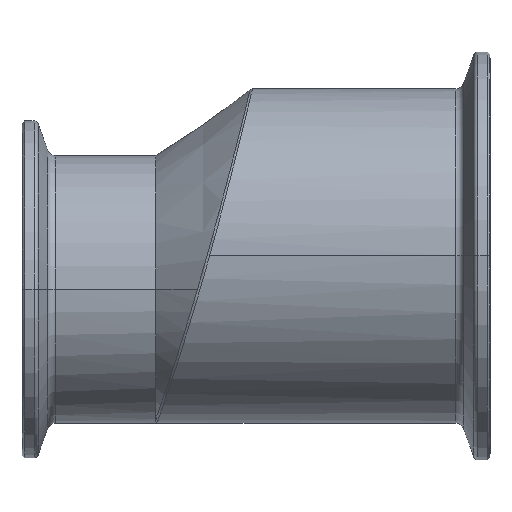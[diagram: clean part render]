
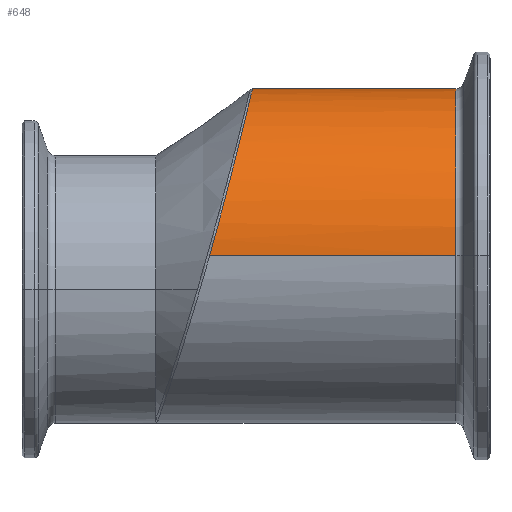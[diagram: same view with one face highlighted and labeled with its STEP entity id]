
A CAD part, top view. The second image highlights one B-rep face of the part: STEP entity #648.
In plain terms, the highlighted cylindrical face has radius 31.75 mm (diameter 63.5 mm), a partial arc.
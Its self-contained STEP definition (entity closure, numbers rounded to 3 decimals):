
#3 = CARTESIAN_POINT ( 'NONE',  ( 38.617, 10.999, -29.802 ) ) ;
#18 = CARTESIAN_POINT ( 'NONE',  ( 39.36, 13.845, -28.646 ) ) ;
#106 = ORIENTED_EDGE ( 'NONE', *, *, #2644, .F. ) ;
#117 = CARTESIAN_POINT ( 'NONE',  ( 39.827, 15.66, -27.697 ) ) ;
#148 = CARTESIAN_POINT ( 'NONE',  ( 40.376, 17.823, -26.281 ) ) ;
#168 = DIRECTION ( 'NONE',  ( -1., 0., 0. ) ) ;
#178 = CARTESIAN_POINT ( 'NONE',  ( 40.484, 18.25, -25.986 ) ) ;
#183 = CARTESIAN_POINT ( 'NONE',  ( 40.696, 19.094, -25.373 ) ) ;
#190 = CARTESIAN_POINT ( 'NONE',  ( 40.801, 19.509, -25.055 ) ) ;
#203 = CARTESIAN_POINT ( 'NONE',  ( -12.994, 0., 31.75 ) ) ;
#213 = CARTESIAN_POINT ( 'NONE',  ( 41.106, 20.725, -24.075 ) ) ;
#221 = CARTESIAN_POINT ( 'NONE',  ( 41.298, 21.499, -23.386 ) ) ;
#277 = VERTEX_POINT ( 'NONE', #1283 ) ;
#324 = CARTESIAN_POINT ( 'NONE',  ( 41.848, 23.716, -21.211 ) ) ;
#334 = CARTESIAN_POINT ( 'NONE',  ( 42.175, 25.052, -19.618 ) ) ;
#345 = CARTESIAN_POINT ( 'NONE',  ( 42.535, 26.536, -17.44 ) ) ;
#354 = CARTESIAN_POINT ( 'NONE',  ( 42.605, 26.823, -16.995 ) ) ;
#391 = CARTESIAN_POINT ( 'NONE',  ( 35.637, 0., -31.75 ) ) ;
#401 = CARTESIAN_POINT ( 'NONE',  ( 36.207, 2.035, -31.75 ) ) ;
#424 = CARTESIAN_POINT ( 'NONE',  ( 42.738, 27.372, -16.097 ) ) ;
#431 = CARTESIAN_POINT ( 'NONE',  ( 42.801, 27.634, -15.642 ) ) ;
#445 = CARTESIAN_POINT ( 'NONE',  ( 42.983, 28.386, -14.261 ) ) ;
#517 = EDGE_CURVE ( 'NONE', #1997, #277, #2037, .T. ) ;
#564 = EDGE_CURVE ( 'NONE', #1801, #879, #2414, .T. ) ;
#568 = CARTESIAN_POINT ( 'NONE',  ( 43.092, 28.84, -13.319 ) ) ;
#576 = CARTESIAN_POINT ( 'NONE',  ( 38.362, 10.029, -30.142 ) ) ;
#596 = CARTESIAN_POINT ( 'NONE',  ( 43.287, 29.655, -11.391 ) ) ;
#629 = CARTESIAN_POINT ( 'NONE',  ( 43.373, 30.015, -10.405 ) ) ;
#645 = CARTESIAN_POINT ( 'NONE',  ( 43.522, 30.64, -8.389 ) ) ;
#648 = ADVANCED_FACE ( 'NONE', ( #1238 ), #722, .T. ) ;
#655 = CARTESIAN_POINT ( 'NONE',  ( 43.585, 30.905, -7.353 ) ) ;
#656 = VECTOR ( 'NONE', #168, 1000. ) ;
#665 = CARTESIAN_POINT ( 'NONE',  ( 43.735, 31.537, -4.24 ) ) ;
#673 = CARTESIAN_POINT ( 'NONE',  ( 43.785, 31.747, -2.147 ) ) ;
#722 = CYLINDRICAL_SURFACE ( 'NONE', #1386, 31.75 ) ;
#780 = DIRECTION ( 'NONE',  ( -1., 0., 0. ) ) ;
#786 = CARTESIAN_POINT ( 'NONE',  ( 37.837, 8.049, -30.73 ) ) ;
#797 = CARTESIAN_POINT ( 'NONE',  ( 43.786, 31.751, 0.49 ) ) ;
#854 = CARTESIAN_POINT ( 'NONE',  ( 43.783, 31.738, 1.018 ) ) ;
#862 = CARTESIAN_POINT ( 'NONE',  ( 43.771, 31.686, 2.077 ) ) ;
#863 = DIRECTION ( 'NONE',  ( 0., 0., 1. ) ) ;
#866 = CARTESIAN_POINT ( 'NONE',  ( 37.57, 7.053, -30.973 ) ) ;
#870 = ORIENTED_EDGE ( 'NONE', *, *, #2088, .T. ) ;
#877 = CARTESIAN_POINT ( 'NONE',  ( 43.761, 31.647, 2.609 ) ) ;
#879 = VERTEX_POINT ( 'NONE', #1494 ) ;
#973 = CARTESIAN_POINT ( 'NONE',  ( 43.724, 31.489, 4.199 ) ) ;
#984 = CARTESIAN_POINT ( 'NONE',  ( 43.686, 31.332, 5.245 ) ) ;
#992 = CARTESIAN_POINT ( 'NONE',  ( 43.538, 30.707, 8.34 ) ) ;
#1041 = CARTESIAN_POINT ( 'NONE',  ( 43.391, 30.091, 10.349 ) ) ;
#1046 = CARTESIAN_POINT ( 'NONE',  ( 43.145, 29.065, 12.79 ) ) ;
#1064 = CARTESIAN_POINT ( 'NONE',  ( 36.761, 4.053, -31.556 ) ) ;
#1074 = CARTESIAN_POINT ( 'NONE',  ( 43.093, 28.847, 13.275 ) ) ;
#1175 = CARTESIAN_POINT ( 'NONE',  ( 42.983, 28.389, 14.227 ) ) ;
#1196 = CARTESIAN_POINT ( 'NONE',  ( 82.382, 0., 31.75 ) ) ;
#1238 = FACE_OUTER_BOUND ( 'NONE', #2584, .T. ) ;
#1240 = CARTESIAN_POINT ( 'NONE',  ( 42.925, 28.15, 14.695 ) ) ;
#1251 = CARTESIAN_POINT ( 'NONE',  ( 41.67, 22.999, 21.913 ) ) ;
#1264 = CARTESIAN_POINT ( 'NONE',  ( 41.117, 20.767, 24.107 ) ) ;
#1283 = CARTESIAN_POINT ( 'NONE',  ( 82.382, 0., -31.75 ) ) ;
#1354 = CARTESIAN_POINT ( 'NONE',  ( 40.715, 19.158, 25.402 ) ) ;
#1372 = CARTESIAN_POINT ( 'NONE',  ( 82.382, 0., 0. ) ) ;
#1386 = AXIS2_PLACEMENT_3D ( 'NONE', #2670, #1438, #1646 ) ;
#1400 = CARTESIAN_POINT ( 'NONE',  ( 40.167, 17., 26.82 ) ) ;
#1408 = CARTESIAN_POINT ( 'NONE',  ( 40.055, 16.561, 27.094 ) ) ;
#1416 = CARTESIAN_POINT ( 'NONE',  ( 39.827, 15.668, 27.62 ) ) ;
#1426 = CARTESIAN_POINT ( 'NONE',  ( 39.71, 15.213, 27.873 ) ) ;
#1438 = DIRECTION ( 'NONE',  ( -1., 0., 0. ) ) ;
#1440 = CARTESIAN_POINT ( 'NONE',  ( 39.356, 13.835, 28.596 ) ) ;
#1494 = CARTESIAN_POINT ( 'NONE',  ( 35.637, 0., 31.75 ) ) ;
#1536 = VECTOR ( 'NONE', #1837, 1000. ) ;
#1556 = CARTESIAN_POINT ( 'NONE',  ( 39.114, 12.901, 29.029 ) ) ;
#1572 = CARTESIAN_POINT ( 'NONE',  ( 38.371, 10.055, 30.185 ) ) ;
#1580 = CARTESIAN_POINT ( 'NONE',  ( 37.852, 8.099, 30.768 ) ) ;
#1587 = CARTESIAN_POINT ( 'NONE',  ( 37.173, 5.581, 31.26 ) ) ;
#1601 = LINE ( 'NONE', #203, #1536 ) ;
#1614 = CARTESIAN_POINT ( 'NONE',  ( 37.035, 5.072, 31.346 ) ) ;
#1623 = CARTESIAN_POINT ( 'NONE',  ( 36.759, 4.056, 31.494 ) ) ;
#1639 = CARTESIAN_POINT ( 'NONE',  ( 36.62, 3.549, 31.555 ) ) ;
#1646 = DIRECTION ( 'NONE',  ( 0., 0., 1. ) ) ;
#1650 = CARTESIAN_POINT ( 'NONE',  ( 36.202, 2.027, 31.702 ) ) ;
#1766 = AXIS2_PLACEMENT_3D ( 'NONE', #1372, #780, #863 ) ;
#1778 = CARTESIAN_POINT ( 'NONE',  ( 35.921, 1.013, 31.75 ) ) ;
#1801 = VERTEX_POINT ( 'NONE', #2183 ) ;
#1823 = CARTESIAN_POINT ( 'NONE',  ( 35.637, 0., 31.75 ) ) ;
#1837 = DIRECTION ( 'NONE',  ( -1., 0., 0. ) ) ;
#1997 = VERTEX_POINT ( 'NONE', #1196 ) ;
#2000 = CARTESIAN_POINT ( 'NONE',  ( -12.994, 0., -31.75 ) ) ;
#2017 = ORIENTED_EDGE ( 'NONE', *, *, #564, .T. ) ;
#2037 = CIRCLE ( 'NONE', #1766, 31.75 ) ;
#2043 = CARTESIAN_POINT ( 'NONE',  ( 41.846, 23.715, 21.137 ) ) ;
#2088 = EDGE_CURVE ( 'NONE', #277, #1801, #2232, .T. ) ;
#2183 = CARTESIAN_POINT ( 'NONE',  ( 35.637, 0., -31.75 ) ) ;
#2232 = LINE ( 'NONE', #2000, #656 ) ;
#2236 = CARTESIAN_POINT ( 'NONE',  ( 42.175, 25.056, 19.529 ) ) ;
#2381 = CARTESIAN_POINT ( 'NONE',  ( 42.328, 25.683, 18.695 ) ) ;
#2397 = ORIENTED_EDGE ( 'NONE', *, *, #517, .T. ) ;
#2414 = B_SPLINE_CURVE_WITH_KNOTS ( 'NONE', 3,
 ( #391, #401, #1064, #866, #786, #576, #3, #18, #117, #148, #178, #183, #190, #213, #221, #324, #334, #345, #354, #424, #431, #445, #568, #596, #629, #645, #655, #665, #673, #797, #854, #862, #877, #973, #984, #992, #1041, #1046, #1074, #1175, #1240, #2665, #2598, #2381, #2236, #2043, #1251, #1264, #1354, #1400, #1408, #1416, #1426, #1440, #1556, #1572, #1580, #1587, #1614, #1623, #1639, #1650, #1778, #1823 ),
 .UNSPECIFIED., .F., .F.,
 ( 4, 2, 2, 2, 2, 2, 2, 2, 2, 2, 2, 2, 2, 2, 2, 2, 2, 2, 2, 2, 2, 2, 2, 2, 2, 2, 2, 2, 2, 2, 2, 4 ),
 ( 0.045, 0.051, 0.054, 0.057, 0.064, 0.065, 0.067, 0.07, 0.076, 0.078, 0.08, 0.083, 0.086, 0.089, 0.095, 0.097, 0.098, 0.102, 0.108, 0.11, 0.111, 0.114, 0.117, 0.121, 0.127, 0.128, 0.13, 0.133, 0.139, 0.141, 0.143, 0.146 ),
 .UNSPECIFIED. ) ;
#2584 = EDGE_LOOP ( 'NONE', ( #2397, #870, #2017, #106 ) ) ;
#2598 = CARTESIAN_POINT ( 'NONE',  ( 42.613, 26.855, 16.97 ) ) ;
#2644 = EDGE_CURVE ( 'NONE', #1997, #879, #1601, .T. ) ;
#2665 = CARTESIAN_POINT ( 'NONE',  ( 42.744, 27.398, 16.078 ) ) ;
#2670 = CARTESIAN_POINT ( 'NONE',  ( -12.994, 0., 0. ) ) ;
